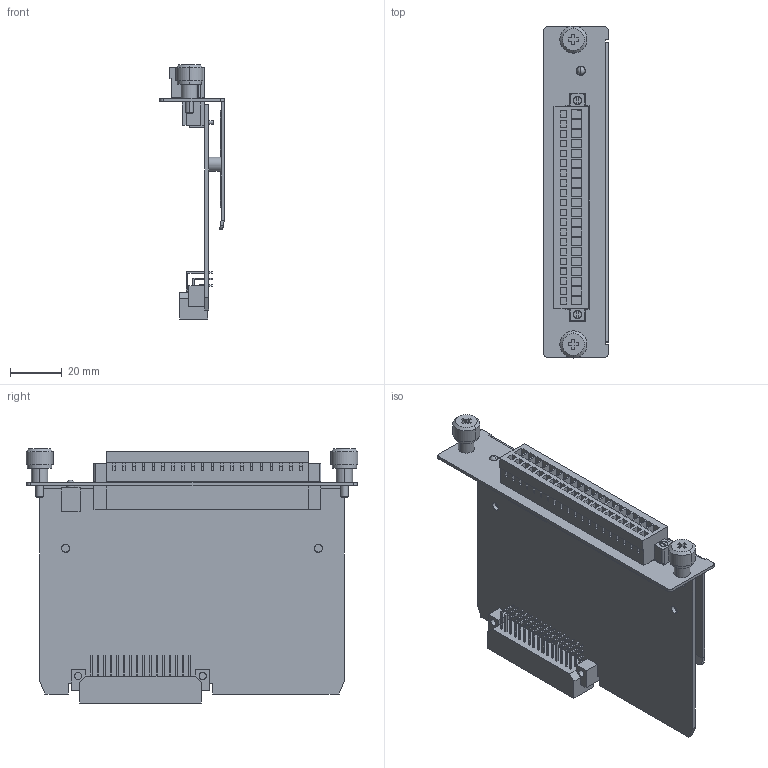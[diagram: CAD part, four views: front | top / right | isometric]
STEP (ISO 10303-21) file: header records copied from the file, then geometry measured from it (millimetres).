
FILE_DESCRIPTION((''),'2;1');
FILE_NAME('PRT0001','2015-06-25T',('Sam_Liu'),('PTC'),'PRO/ENGINEER BY PARAMETRIC TECHNOLOGY CORPORATION, 2013230','PRO/ENGINEER BY PARAMETRIC TECHNOLOGY CORPORATION, 2013230','');
FILE_SCHEMA(('AUTOMOTIVE_DESIGN { 1 0 10303 214 1 1 1 1 }'));
Length unit declared in the file: millimetre
Products named in the file (1): PRT0001
Bounding box: 25 x 128.7 x 98.5 mm (x, y, z)
Volume: 47056.2 mm3; surface area: 54882.4 mm2
Topology: 1 solids, 6 shells, 1523 faces, 4027 edges, 2659 vertices
Faces by surface type: plane 1285, cylinder 180, torus 48, cone 8, sphere 2
Entity records: 47930 total; most frequent: CARTESIAN_POINT 8625, ORIENTED_EDGE 8050, DIRECTION 7500, EDGE_CURVE 4025, VECTOR 3504, LINE 3504, VERTEX_POINT 2659, AXIS2_PLACEMENT_3D 1998
